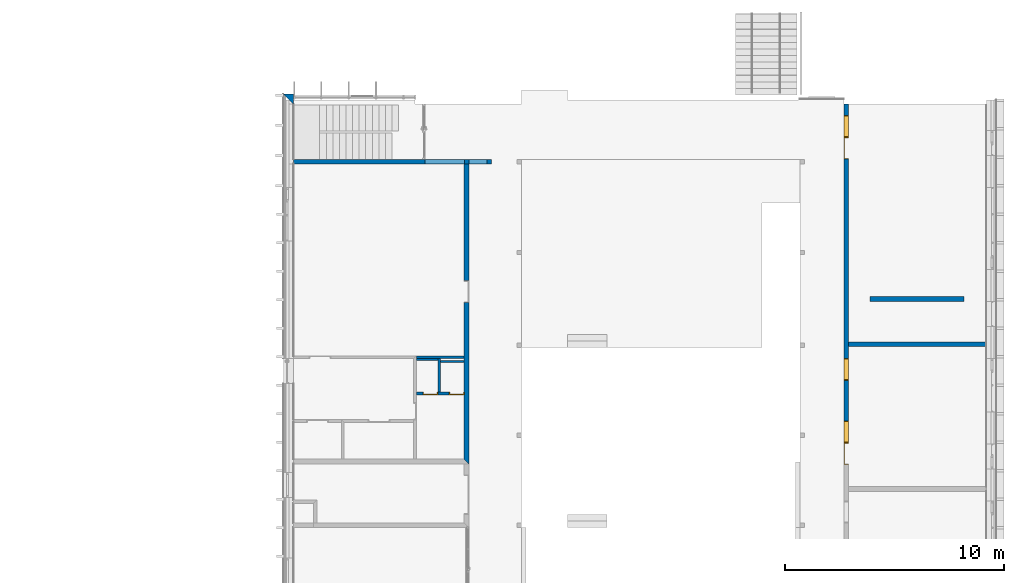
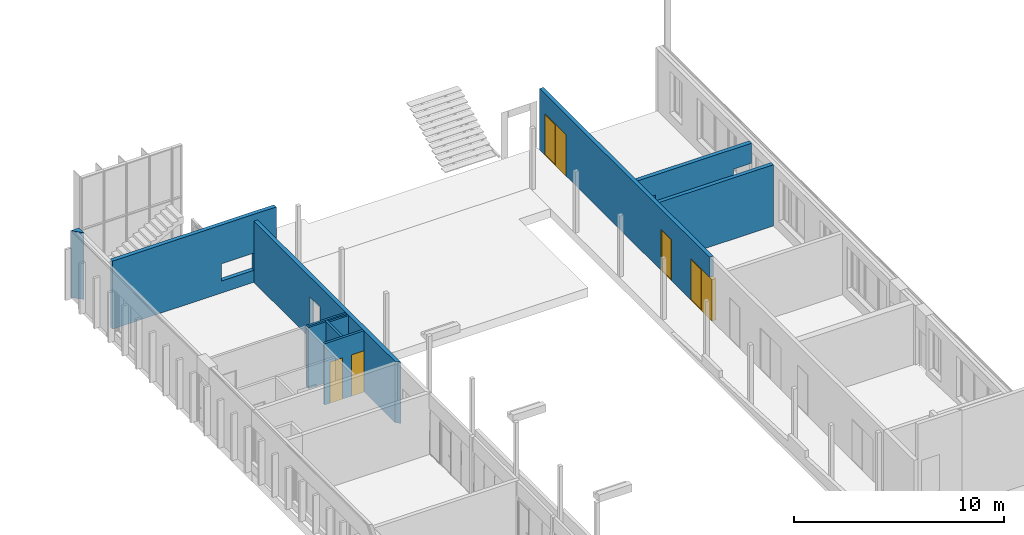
# One storey, part 10 of 65: 11 walls, 4 doors, 3 windows, 12 openings.
"""IFC2X3 building model written with IfcOpenShell, lengths in millimetres."""

import ifcopenshell
import ifcopenshell.guid

model = None  # the IFC model being written
_history = None  # IfcOwnerHistory: only IFC2X3 demands one
_inside = {}  # id of a spatial element -> (the spatial element, [elements in it])
_under = {}  # id of a project, library or spatial element -> (it, [spatial elements below it])
_declared = {}  # id of a project -> (the project, [libraries it declares])
_typed = {}  # id of a type object -> (the type object, [elements of that type])
_made_of = {}  # id of a material, layer set ... -> (it, [elements and type objects made of it])


def new_model(schema):
    """Start an empty IFC model of exactly this schema.

    Asked for "IFC4X3", IfcOpenShell would pick the latest addendum, in which some entities
    have other attributes; the version numbers below select the first issue.
    IFC2X3 requires an IfcOwnerHistory on every rooted entity: one is made here for all.
    """
    global model, _history
    if schema == "IFC4X3":
        model = ifcopenshell.file(schema_version=(4, 3, 0, 0))
    else:
        model = ifcopenshell.file(schema=schema)
    _inside.clear()
    _under.clear()
    _declared.clear()
    _typed.clear()
    _made_of.clear()
    _history = None
    if model.schema == "IFC2X3":
        org = make("IfcOrganization", Name="unknown")
        user = make(
            "IfcPersonAndOrganization",
            ThePerson=make("IfcPerson", FamilyName="unknown"),
            TheOrganization=org,
        )
        app = make(
            "IfcApplication",
            ApplicationDeveloper=org,
            Version="unknown",
            ApplicationFullName="unknown",
            ApplicationIdentifier="unknown",
        )
        _history = make(
            "IfcOwnerHistory",
            OwningUser=user,
            OwningApplication=app,
            ChangeAction="ADDED",
            CreationDate=0,
        )
    return model


def make(cls, **values):
    """One entity of the class cls with the attributes given. An attribute that is None is left unset."""
    return model.create_entity(
        cls, **{name: value for name, value in values.items() if value is not None}
    )


def entity(cls, *values):
    """Any entity or typed value of the class cls, its attributes in the order of the schema. None: left unset."""
    e = model.create_entity(cls)
    for i, value in enumerate(values):
        if value is not None:
            e[i] = value
    return e


def rooted(cls, **values):
    """An entity with a GlobalId (a new one), such as an element, a storey or a relation."""
    return make(cls, GlobalId=ifcopenshell.guid.new(), OwnerHistory=_history, **values)


def si_unit(unit_type, name, prefix=None):
    """IfcSIUnit, for example si_unit("LENGTHUNIT", "METRE", prefix="MILLI")."""
    return make("IfcSIUnit", UnitType=unit_type, Prefix=prefix, Name=name)


def converted_unit(unit_type, name, factor, base, dimensions=None, offset=None):
    """IfcConversionBasedUnit, such as the inch: factor (a typed value) times the base unit."""
    return make(
        "IfcConversionBasedUnit"
        if offset is None
        else "IfcConversionBasedUnitWithOffset",
        ConversionOffset=offset,
        Dimensions=None
        if dimensions is None
        else entity("IfcDimensionalExponents", *dimensions),
        UnitType=unit_type,
        Name=name,
        ConversionFactor=make(
            "IfcMeasureWithUnit", ValueComponent=factor, UnitComponent=base
        ),
    )


def derived_unit(unit_type, elements):
    """IfcDerivedUnit: a product of units, each with its exponent."""
    return make(
        "IfcDerivedUnit",
        Elements=[
            make("IfcDerivedUnitElement", Unit=unit, Exponent=power)
            for unit, power in elements
        ],
        UnitType=unit_type,
    )


def money_unit(currency):
    """IfcMonetaryUnit."""
    return make("IfcMonetaryUnit", Currency=currency)


def assignment(units):
    """IfcUnitAssignment: the units of a project."""
    return None if units is None else make("IfcUnitAssignment", Units=units)


def point(xyz):
    """IfcCartesianPoint."""
    return None if xyz is None else make("IfcCartesianPoint", Coordinates=xyz)


def direction(xyz):
    """IfcDirection."""
    return None if xyz is None else make("IfcDirection", DirectionRatios=xyz)


def frame(location, z_axis=None, x_axis=None):
    """IfcAxis2Placement3D, a coordinate frame: its origin and axes. An axis left out is left unset."""
    return make(
        "IfcAxis2Placement3D",
        Location=point(location),
        Axis=direction(z_axis),
        RefDirection=direction(x_axis),
    )


def frame_2d(location, x_axis=None):
    """IfcAxis2Placement2D, a coordinate frame in the plane: its origin and x axis."""
    return make(
        "IfcAxis2Placement2D", Location=point(location), RefDirection=direction(x_axis)
    )


def origin_with_axes():
    """The frame at (0, 0, 0) with the z axis (0, 0, 1) and the x axis (1, 0, 0) written out."""
    return frame((0.0, 0.0, 0.0), z_axis=(0.0, 0.0, 1.0), x_axis=(1.0, 0.0, 0.0))


def origin_2d_with_axis():
    """The frame at (0, 0) in the plane with the x axis (1, 0) written out."""
    return frame_2d((0.0, 0.0), x_axis=(1.0, 0.0))


def place(relative_to, where):
    """IfcLocalPlacement: puts the frame where relative to a parent placement (None: the world)."""
    return make(
        "IfcLocalPlacement", PlacementRelTo=relative_to, RelativePlacement=where
    )


def context(
    kind, dimensions, precision=None, world=None, true_north=None, identifier=None
):
    """IfcGeometricRepresentationContext, for example the 3D "Model" context."""
    return make(
        "IfcGeometricRepresentationContext",
        ContextIdentifier=identifier,
        ContextType=kind,
        CoordinateSpaceDimension=dimensions,
        Precision=precision,
        WorldCoordinateSystem=world,
        TrueNorth=true_north,
    )


def subcontext(parent, identifier, kind, view, scale=None):
    """IfcGeometricRepresentationSubContext, for example "Body" below "Model"."""
    return make(
        "IfcGeometricRepresentationSubContext",
        ContextIdentifier=identifier,
        ContextType=kind,
        ParentContext=parent,
        TargetScale=scale,
        TargetView=view,
    )


def project(units=None, contexts=None):
    """IfcProject with its units and contexts."""
    return rooted(
        "IfcProject",
        Name="project",
        RepresentationContexts=contexts,
        UnitsInContext=assignment(units),
    )


def spatial(cls, under=None, at=None, **own):
    """A site, building, storey or space (cls), placed at a placement, below another one or the project."""
    s = rooted(cls, ObjectPlacement=at, **own)
    if under is not None:
        _under.setdefault(under.id(), (under, []))[1].append(s)
    return s


def polyline(points):
    """IfcPolyline through the points."""
    return make("IfcPolyline", Points=[point(p) for p in points])


def profile(cls, at=None, kind="AREA", **sizes):
    """A parametric profile (cls). Its sizes go by their IFC names, for example OverallWidth=200.0."""
    return make(cls, ProfileType=kind, Position=at, **sizes)


def rectangle(**sizes):
    """IfcRectangleProfileDef."""
    return profile("IfcRectangleProfileDef", **sizes)


def outline(outer, holes=None, kind="AREA"):
    """IfcArbitraryClosedProfileDef: a profile drawn as a closed curve; with holes, ...WithVoids."""
    if holes is None:
        return make("IfcArbitraryClosedProfileDef", ProfileType=kind, OuterCurve=outer)
    return make(
        "IfcArbitraryProfileDefWithVoids",
        ProfileType=kind,
        OuterCurve=outer,
        InnerCurves=holes,
    )


def extrude(swept, where, along, depth):
    """IfcExtrudedAreaSolid: the profile swept, set in the frame where, extruded along a direction by depth."""
    return make(
        "IfcExtrudedAreaSolid",
        SweptArea=swept,
        Position=where,
        ExtrudedDirection=direction(along),
        Depth=depth,
    )


def faces_of(points, faces, orient=None, outer=None):
    """IfcFace entities. A face is a list of loops; a loop is a list of indices into points, from 0.

    orient and outer hold one flag for each loop. By default every Orientation is true, the
    first loop of a face is its IfcFaceOuterBound and the others are IfcFaceBound.
    """
    made = []
    for i, loops in enumerate(faces):
        bounds = []
        for j, loop in enumerate(loops):
            is_outer = j == 0 if outer is None else outer[i][j]
            bounds.append(
                make(
                    "IfcFaceOuterBound" if is_outer else "IfcFaceBound",
                    Bound=make("IfcPolyLoop", Polygon=[points[k] for k in loop]),
                    Orientation=True if orient is None else orient[i][j],
                )
            )
        made.append(make("IfcFace", Bounds=bounds))
    return made


def open_shell(faces, orient=None, outer=None):
    """The faces of one IfcOpenShell. surface_model builds it on its shared points."""
    return ("IfcOpenShell", faces, orient, outer)


def faceted_brep(points, faces, orient=None, outer=None, voids=None):
    """IfcFacetedBrep: a solid bounded by flat faces; with voids (closed shells), ...WithVoids."""
    shared = [point(p) for p in points]
    hull = make("IfcClosedShell", CfsFaces=faces_of(shared, faces, orient, outer))
    if voids is None:
        return make("IfcFacetedBrep", Outer=hull)
    return make(
        "IfcFacetedBrepWithVoids",
        Outer=hull,
        Voids=[
            make(cls, CfsFaces=faces_of(shared, fs, o, b)) for cls, fs, o, b in voids
        ],
    )


def surface_model(cls, points, shells):
    """IfcFaceBasedSurfaceModel or IfcShellBasedSurfaceModel (cls): surfaces that need not close."""
    shared = [point(p) for p in points]
    made = [make(c, CfsFaces=faces_of(shared, fs, o, b)) for c, fs, o, b in shells]
    if cls == "IfcFaceBasedSurfaceModel":
        return make(cls, FbsmFaces=made)
    return make(cls, SbsmBoundary=made)


def shape(context_of_items, identifier, shape_type, items):
    """IfcShapeRepresentation: the items that make up one representation, for example the "Body"."""
    return make(
        "IfcShapeRepresentation",
        ContextOfItems=context_of_items,
        RepresentationIdentifier=identifier,
        RepresentationType=shape_type,
        Items=items,
    )


def source(mapping_origin, context_of_items, identifier, shape_type, items):
    """IfcRepresentationMap: a shape defined once, which mapped items show again and again."""
    return make(
        "IfcRepresentationMap",
        MappingOrigin=mapping_origin,
        MappedRepresentation=shape(context_of_items, identifier, shape_type, items),
    )


def transform(
    local_origin,
    x_axis=None,
    y_axis=None,
    z_axis=None,
    scale=None,
    scale2=None,
    scale3=None,
    uniform=True,
):
    """IfcCartesianTransformationOperator3D, or its non-uniform kind. x_axis, y_axis, z_axis: its Axis1, 2, 3."""
    if uniform:
        return make(
            "IfcCartesianTransformationOperator3D",
            Axis1=direction(x_axis),
            Axis2=direction(y_axis),
            LocalOrigin=point(local_origin),
            Scale=scale,
            Axis3=direction(z_axis),
        )
    return make(
        "IfcCartesianTransformationOperator3DnonUniform",
        Axis1=direction(x_axis),
        Axis2=direction(y_axis),
        LocalOrigin=point(local_origin),
        Scale=scale,
        Axis3=direction(z_axis),
        Scale2=scale2,
        Scale3=scale3,
    )


def mapped(mapping_source, mapping_target):
    """IfcMappedItem: shows the shape of a source again, moved by a transform."""
    return make(
        "IfcMappedItem", MappingSource=mapping_source, MappingTarget=mapping_target
    )


def material(Name=None, Category=None):
    """IfcMaterial."""
    return make("IfcMaterial", Name=Name, Category=Category)


def layer(
    of_material, thickness, ventilated=None, Name=None, Category=None, Priority=None
):
    """IfcMaterialLayer: one layer of a wall or slab, of a material (None: an air gap)."""
    return make(
        "IfcMaterialLayer",
        Material=of_material,
        LayerThickness=thickness,
        IsVentilated=ventilated,
        Name=Name,
        Category=Category,
        Priority=Priority,
    )


def layer_set(layers, Name=None):
    """IfcMaterialLayerSet."""
    return make("IfcMaterialLayerSet", MaterialLayers=layers, LayerSetName=Name)


def layer_usage(for_layer_set, set_direction, sense, offset, extent=None):
    """IfcMaterialLayerSetUsage: how a layer set lies in its element."""
    return make(
        "IfcMaterialLayerSetUsage",
        ForLayerSet=for_layer_set,
        LayerSetDirection=set_direction,
        DirectionSense=sense,
        OffsetFromReferenceLine=offset,
        ReferenceExtent=extent,
    )


def made_of(thing, what):
    """Note that an element or type object is made of a material, layer set ...; save() writes the relation."""
    if what is not None:
        _made_of.setdefault(what.id(), (what, []))[1].append(thing)
    return thing


def type_object(cls, material=None, **own):
    """A type object (cls), such as IfcWallType, which elements share."""
    return made_of(rooted(cls, **own), material)


def element(
    cls,
    number,
    at=None,
    inside=None,
    cuts=None,
    type_object=None,
    material=None,
    context=None,
    identifier="Body",
    shape_type=None,
    held_by="IfcProductDefinitionShape",
    body=None,
    shapes=None,
    **own,
):
    """One element of the class cls, such as IfcWall. Its Tag is "e" and its number.

    at: its placement. inside: the storey or other place that contains it. cuts: it is an
    opening in that element (IfcRelVoidsElement). A single representation is given by context,
    identifier, shape_type and body (its items); several are given by shapes. held_by: the class
    of the entity that holds the representations. save() writes the other relations.
    """
    e = rooted(cls, Tag="e%d" % number, ObjectPlacement=at, **own)
    if body is not None:
        shapes = [shape(context, identifier, shape_type, body)]
    if shapes is not None:
        e.Representation = make(held_by, Representations=shapes)
    if inside is not None:
        _inside.setdefault(inside.id(), (inside, []))[1].append(e)
    if cuts is not None:
        rooted(
            "IfcRelVoidsElement", RelatingBuildingElement=cuts, RelatedOpeningElement=e
        )
    if type_object is not None:
        _typed.setdefault(type_object.id(), (type_object, []))[1].append(e)
    return made_of(e, material)


def fill(opening, filler):
    """IfcRelFillsElement: the door or window that sits in an opening."""
    return rooted(
        "IfcRelFillsElement",
        RelatingOpeningElement=opening,
        RelatedBuildingElement=filler,
    )


def aggregate(whole, parts):
    """IfcRelAggregates: a whole, such as a stair, and the parts it consists of."""
    return rooted("IfcRelAggregates", RelatingObject=whole, RelatedObjects=parts)


def save(model, path):
    """Write the relations noted so far, then the file.

    IfcRelAggregates (storeys below a building ...), IfcRelContainedInSpatialStructure (elements
    in a storey), IfcRelDefinesByType, IfcRelAssociatesMaterial and IfcRelDeclares: one each for
    every whole, place, type object, material and project.
    """
    for whole, parts in _under.values():
        aggregate(whole, parts)
    for where, things in _inside.values():
        rooted(
            "IfcRelContainedInSpatialStructure",
            RelatedElements=things,
            RelatingStructure=where,
        )
    for kind, things in _typed.values():
        rooted("IfcRelDefinesByType", RelatedObjects=things, RelatingType=kind)
    for what, things in _made_of.values():
        rooted("IfcRelAssociatesMaterial", RelatedObjects=things, RelatingMaterial=what)
    for by, libraries in _declared.values():
        rooted("IfcRelDeclares", RelatingContext=by, RelatedDefinitions=libraries)
    model.write(path)


model = new_model("IFC2X3")

# Units and contexts
model_context = context("Model", 3, precision=0.01, world=origin_with_axes(), true_north=direction((0.0, 1.0)))
body_context = subcontext(model_context, "Body", "Model", "MODEL_VIEW")
ifc_project = project(units=[si_unit("LENGTHUNIT", "METRE", prefix="MILLI"), si_unit("AREAUNIT", "SQUARE_METRE"), si_unit("VOLUMEUNIT", "CUBIC_METRE"), converted_unit("PLANEANGLEUNIT", "DEGREE", entity("IfcPlaneAngleMeasure", 0.0174532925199), si_unit("PLANEANGLEUNIT", "RADIAN"), dimensions=[0, 0, 0, 0, 0, 0, 0]), si_unit("SOLIDANGLEUNIT", "STERADIAN"), money_unit("EUR"), converted_unit("TIMEUNIT", "Year", entity("IfcTimeMeasure", 31556926.0), si_unit("TIMEUNIT", "SECOND"), dimensions=[0, 0, 1, 0, 0, 0, 0]), si_unit("MASSUNIT", "GRAM", prefix="KILO"), si_unit("THERMODYNAMICTEMPERATUREUNIT", "DEGREE_CELSIUS"), si_unit("LUMINOUSINTENSITYUNIT", "LUMEN"), si_unit("ENERGYUNIT", "JOULE", prefix="MEGA"), derived_unit("THERMALCONDUCTANCEUNIT", [(si_unit("POWERUNIT", "WATT"), 1), (si_unit("LENGTHUNIT", "METRE"), -1), (si_unit("THERMODYNAMICTEMPERATUREUNIT", "KELVIN"), -1)]), derived_unit("SPECIFICHEATCAPACITYUNIT", [(si_unit("ENERGYUNIT", "JOULE"), 1), (si_unit("MASSUNIT", "GRAM", prefix="KILO"), -1), (si_unit("THERMODYNAMICTEMPERATUREUNIT", "KELVIN"), -1)]), derived_unit("MASSDENSITYUNIT", [(si_unit("MASSUNIT", "GRAM", prefix="KILO"), 1), (si_unit("VOLUMEUNIT", "CUBIC_METRE"), -1)])], contexts=[model_context])

# Site, building, storey
site_placement = place(None, origin_with_axes())
site = spatial("IfcSite", under=ifc_project, at=site_placement, Name="Puškini 31, Narva", CompositionType="ELEMENT")
building_placement = place(site_placement, origin_with_axes())
building = spatial("IfcBuilding", under=site, at=building_placement, Name="Narva Riigigümnaasium", CompositionType="ELEMENT")
storey_placement = place(building_placement, frame((0.0, 0.0, -1320.0), z_axis=(0.0, 0.0, 1.0), x_axis=(1.0, 0.0, 0.0)))
storey = spatial("IfcBuildingStorey", under=building, at=storey_placement, Name="1.korrus -1.32", CompositionType="ELEMENT", Elevation=-1320.0)

# Walls
ifc_material_1 = material(Name="fassaadiplaat")
ifc_layer_1 = layer(ifc_material_1, 8.0, ventilated="UNKNOWN")
ifc_material_2 = material(Name="Salto-roovitus")
ifc_layer_2 = layer(ifc_material_2, 50.0, ventilated="UNKNOWN")
ifc_material_3 = material(Name="Salto-PIR soojustus")
ifc_layer_3 = layer(ifc_material_3, 50.0, ventilated="UNKNOWN")
ifc_layer_4 = layer(ifc_material_3, 150.0, ventilated="UNKNOWN")
ifc_material_4 = material(Name="Betoon element")
ifc_layer_5 = layer(ifc_material_4, 200.0, ventilated="UNKNOWN")
ifc_material_5 = material(Name="Salto-siseviimistlus-seinad")
ifc_layer_6 = layer(ifc_material_5, 10.0, ventilated="UNKNOWN")
ifc_layer_set_1 = layer_set([ifc_layer_1, ifc_layer_2, ifc_layer_3, ifc_layer_4, ifc_layer_5, ifc_layer_6], Name="G-VS-01")
ifc_layer_usage_1 = layer_usage(ifc_layer_set_1, "AXIS2", "NEGATIVE", 458.0)
wall_type_1 = type_object("IfcWallType", Name="G-VS-01 468", PredefinedType="NOTDEFINED")
wall_1_placement = place(storey_placement, frame((22399.9999985, 194700.0, 70.2720110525), z_axis=(0.0, 0.0, 1.0), x_axis=(1.0, 0.0, 0.0)))
element("IfcWallStandardCase", 1, at=wall_1_placement, inside=storey, type_object=wall_type_1, material=ifc_layer_usage_1, Name="Välissein", context=body_context, shape_type="SweptSolid", body=[
    extrude(outline(polyline([(10.0, -9.99999999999), (10.0, 458.0), (-458.0, 458.0), (10.0, -9.99999999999)])), origin_with_axes(), (0.0, 0.0, 1.0), 3889.72798895),
])
ifc_material_6 = material(Name="siseviimistlus-seinad")
ifc_layer_7 = layer(ifc_material_6, 15.0, ventilated="UNKNOWN")
ifc_material_7 = material(Name="Kipsplaat")
ifc_layer_8 = layer(ifc_material_7, 12.5, ventilated="UNKNOWN")
ifc_layer_9 = layer(ifc_material_7, 12.0, ventilated="UNKNOWN")
ifc_material_8 = material(Name="Karkass")
ifc_layer_10 = layer(ifc_material_8, 66.0, ventilated="UNKNOWN")
ifc_layer_set_2 = layer_set([ifc_layer_7, ifc_layer_8, ifc_layer_9, ifc_layer_10], Name="G-SS-06")
ifc_layer_usage_2 = layer_usage(ifc_layer_set_2, "AXIS2", "POSITIVE", -15.0)
wall_type_2 = type_object("IfcWallType", Name="G-SS-06 106", PredefinedType="NOTDEFINED")
wall_2_placement = place(storey_placement, frame((29099.9999994, 182925.649991, 0.0), z_axis=(0.0, 0.0, 1.0), x_axis=(1.0, 0.0, 0.0)))
element("IfcWallStandardCase", 2, at=wall_2_placement, inside=storey, type_object=wall_type_2, material=ifc_layer_usage_2, Name="Sisesein", context=body_context, shape_type="SweptSolid", body=[
    extrude(outline(polyline([(15.0, -15.0), (1085.00000001, -15.0), (1085.00000001, 90.5), (15.0, 90.5), (15.0, -15.0)])), origin_with_axes(), (0.0, 0.0, 1.0), 3560.0),
])
wall_3_placement = place(storey_placement, frame((27999.9999994, 183019.649991, 0.0), z_axis=(0.0, 0.0, 1.0), x_axis=(1.0, 0.0, 0.0)))
element("IfcWallStandardCase", 3, at=wall_3_placement, inside=storey, type_object=wall_type_2, material=ifc_layer_usage_2, Name="Sisesein", context=body_context, shape_type="SweptSolid", body=[
    extrude(outline(polyline([(15.0, -15.0), (985.000000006, -15.0), (985.000000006, 90.5), (15.0, 90.5), (15.0, -15.0)])), origin_with_axes(), (0.0, 0.0, 1.0), 3560.0),
])

# Wall, openings, windows, doors
ifc_layer_11 = layer(ifc_material_6, 10.0, ventilated="UNKNOWN")
ifc_layer_set_3 = layer_set([ifc_layer_5, ifc_layer_11], Name="G-SS-01-02")
ifc_layer_usage_3 = layer_usage(ifc_layer_set_3, "AXIS2", "POSITIVE", 0.0)
wall_type_3 = type_object("IfcWallType", Name="G-SS-01-02 210", PredefinedType="NOTDEFINED")
wall_4_placement = place(storey_placement, frame((47499.9999944, 194700.0, 0.0), z_axis=(0.0, 0.0, 1.0), x_axis=(0.0, -1.0, 0.0)))
wall_4 = element("IfcWallStandardCase", 4, at=wall_4_placement, inside=storey, type_object=wall_type_3, material=ifc_layer_usage_3, Name="Sisesein", context=body_context, shape_type="SweptSolid", body=[
    extrude(outline(polyline([(0.0, 0.0), (16199.99999, 0.0), (16199.99999, 210.0), (0.0, 210.0), (0.0, 0.0)])), origin_with_axes(), (0.0, 0.0, 1.0), 3565.0),
])
opening_1_placement = place(wall_4_placement, frame((14940.0000148, 0.0, 0.0), z_axis=(0.0, 0.0, 1.0), x_axis=(1.0, 0.0, 0.0)))
opening_1 = element("IfcOpeningElement", 5, at=opening_1_placement, cuts=wall_4, Name="G-SA-2", context=body_context, shape_type="SweptSolid", body=[
    extrude(rectangle(XDim=1000.0, YDim=2400.0, at=origin_2d_with_axis()), frame((0.0, 210.0, 1200.0), z_axis=(0.0, 1.0, 0.0), x_axis=(1.0, 0.0, 0.0)), (0.0, 0.0, -1.0), 630.0),
])
opening_2_placement = place(wall_4_placement, frame((12089.8487277, 0.0, 0.0), z_axis=(0.0, 0.0, 1.0), x_axis=(1.0, 0.0, 0.0)))
opening_2 = element("IfcOpeningElement", 6, at=opening_2_placement, cuts=wall_4, Name="G-SA-2", context=body_context, shape_type="SweptSolid", body=[
    extrude(rectangle(XDim=1000.0, YDim=2400.0, at=origin_2d_with_axis()), frame((0.0, 210.0, 1200.0), z_axis=(0.0, -1.0, 0.0), x_axis=(-1.0, 0.0, 0.0)), (0.0, 0.0, 1.0), 630.0),
])
opening_3_placement = place(wall_4_placement, frame((1009.99999955, 0.0, 0.0), z_axis=(0.0, 0.0, 1.0), x_axis=(1.0, 0.0, 0.0)))
opening_3 = element("IfcOpeningElement", 7, at=opening_3_placement, cuts=wall_4, Name="G-SA-2", context=body_context, shape_type="SweptSolid", body=[
    extrude(rectangle(XDim=1000.0, YDim=2400.0, at=origin_2d_with_axis()), frame((0.0, 210.0, 1200.0), z_axis=(0.0, 1.0, 0.0), x_axis=(1.0, 0.0, 0.0)), (0.0, 0.0, -1.0), 630.0),
])
opening_4_placement = place(wall_4_placement, frame((15940.0000148, 0.0, 0.0), z_axis=(0.0, 0.0, 1.0), x_axis=(1.0, 0.0, 0.0)))
opening_4 = element("IfcOpeningElement", 8, at=opening_4_placement, cuts=wall_4, Name="G-SU-11", context=body_context, shape_type="SweptSolid", body=[
    extrude(rectangle(XDim=1000.0, YDim=2400.0, at=origin_2d_with_axis()), frame((0.0, 210.0, 1200.0), z_axis=(0.0, -1.0, 0.0), x_axis=(-1.0, 0.0, 0.0)), (0.0, 0.0, 1.0), 630.0),
])
opening_5_placement = place(wall_4_placement, frame((2009.99999955, 0.0, 0.0), z_axis=(0.0, 0.0, 1.0), x_axis=(1.0, 0.0, 0.0)))
opening_5 = element("IfcOpeningElement", 9, at=opening_5_placement, cuts=wall_4, Name="G-SU-010", context=body_context, shape_type="SweptSolid", body=[
    extrude(rectangle(XDim=1000.0, YDim=2400.0, at=origin_2d_with_axis()), frame((0.0, 210.0, 1200.0), z_axis=(0.0, -1.0, 0.0), x_axis=(-1.0, 0.0, 0.0)), (0.0, 0.0, 1.0), 630.0),
])
window_style = type_object("IfcWindowStyle", Name="Window 23", ConstructionType="NOTDEFINED", OperationType="SINGLE_PANEL", ParameterTakesPrecedence=False, Sizeable=False)
shared_shape_1 = source(origin_with_axes(), body_context, "Body", "SurfaceModel", [
    faceted_brep([(-460.0, -210.0, 2360.0), (-460.0, 0.0, 2360.0), (-500.0, 0.0, 2360.0), (-500.0, -210.0, 2360.0), (-460.0, -210.0, 40.0), (-460.0, 0.0, 40.0), (-500.0, 0.0, 40.0), (-500.0, -210.0, 40.0)], [[[0, 1, 2, 3]], [[4, 5, 1, 0]], [[1, 5, 6, 2]], [[3, 2, 6, 7]], [[0, 3, 7, 4]], [[7, 6, 5, 4]]]),
    faceted_brep([(460.0, -210.0, 40.0), (460.0, 0.0, 40.0), (500.0, 0.0, 40.0), (500.0, -210.0, 40.0), (460.0, -210.0, 2360.0), (460.0, 0.0, 2360.0), (500.0, 0.0, 2360.0), (500.0, -210.0, 2360.0)], [[[0, 1, 2, 3]], [[4, 5, 1, 0]], [[1, 5, 6, 2]], [[3, 2, 6, 7]], [[0, 3, 7, 4]], [[7, 6, 5, 4]]]),
    faceted_brep([(-460.0, -210.0, 40.0), (-460.0, 0.0, 40.0), (-500.0, 0.0, 40.0), (-500.0, -210.0, 40.0), (460.0, -210.0, 40.0), (460.0, 0.0, 40.0), (500.0, 0.0, 40.0), (500.0, 0.0, 0.0), (-500.0, 0.0, 0.0), (-500.0, -210.0, 0.0), (500.0, -210.0, 0.0), (500.0, -210.0, 40.0)], [[[0, 1, 2, 3]], [[4, 5, 1, 0]], [[1, 5, 6, 7, 8, 2]], [[3, 2, 8, 9]], [[0, 3, 9, 10, 11, 4]], [[11, 6, 5, 4]], [[10, 7, 6, 11]], [[9, 8, 7, 10]]]),
    faceted_brep([(460.0, -210.0, 2360.0), (460.0, 0.0, 2360.0), (500.0, 0.0, 2360.0), (500.0, -210.0, 2360.0), (-460.0, -210.0, 2360.0), (-460.0, 0.0, 2360.0), (-500.0, 0.0, 2360.0), (-500.0, 0.0, 2400.0), (500.0, 0.0, 2400.0), (500.0, -210.0, 2400.0), (-500.0, -210.0, 2400.0), (-500.0, -210.0, 2360.0)], [[[0, 1, 2, 3]], [[4, 5, 1, 0]], [[1, 5, 6, 7, 8, 2]], [[3, 2, 8, 9]], [[0, 3, 9, 10, 11, 4]], [[11, 6, 5, 4]], [[10, 7, 6, 11]], [[9, 8, 7, 10]]]),
    surface_model("IfcShellBasedSurfaceModel", [(-460.0, -35.0, 40.0), (460.0, -35.0, 40.0), (460.0, -35.0, 2360.0), (-460.0, -35.0, 2360.0)], [open_shell([[[0, 1, 2, 3]]])]),
    surface_model("IfcShellBasedSurfaceModel", [(-460.0, -15.0, 40.0), (-460.0, -15.0, 2360.0), (460.0, -15.0, 2360.0), (460.0, -15.0, 40.0)], [open_shell([[[0, 1, 2, 3]]])]),
])
window_1_placement = place(opening_2_placement, frame((500.0, 0.0, 0.0), z_axis=(0.0, 0.0, 1.0), x_axis=(-1.0, 0.0, 0.0)))
window_1 = element("IfcWindow", 10, at=window_1_placement, inside=storey, type_object=window_style, Name="G-SA-2", ObjectType="WINDOW", OverallHeight=2400.0, OverallWidth=1000.0, context=body_context, shape_type="MappedRepresentation", body=[
    mapped(shared_shape_1, transform((500.0, 0.0, 0.0))),
])
fill(opening_2, window_1)
shared_shape_2 = source(origin_with_axes(), body_context, "Body", "SurfaceModel", [
    faceted_brep([(460.0, -210.0, 2360.0), (500.0, -210.0, 2360.0), (500.0, 0.0, 2360.0), (460.0, 0.0, 2360.0), (460.0, -210.0, 40.0), (500.0, -210.0, 40.0), (500.0, 0.0, 40.0), (460.0, 0.0, 40.0)], [[[0, 1, 2, 3]], [[0, 4, 5, 1]], [[1, 5, 6, 2]], [[3, 2, 6, 7]], [[4, 0, 3, 7]], [[5, 4, 7, 6]]]),
    faceted_brep([(-460.0, -210.0, 40.0), (-500.0, -210.0, 40.0), (-500.0, 0.0, 40.0), (-460.0, 0.0, 40.0), (-460.0, -210.0, 2360.0), (-500.0, -210.0, 2360.0), (-500.0, 0.0, 2360.0), (-460.0, 0.0, 2360.0)], [[[0, 1, 2, 3]], [[0, 4, 5, 1]], [[1, 5, 6, 2]], [[3, 2, 6, 7]], [[4, 0, 3, 7]], [[5, 4, 7, 6]]]),
    faceted_brep([(460.0, -210.0, 40.0), (500.0, -210.0, 40.0), (500.0, 0.0, 40.0), (460.0, 0.0, 40.0), (-460.0, -210.0, 40.0), (-500.0, -210.0, 40.0), (-500.0, -210.0, 0.0), (500.0, -210.0, 0.0), (500.0, 0.0, 0.0), (-500.0, 0.0, 0.0), (-500.0, 0.0, 40.0), (-460.0, 0.0, 40.0)], [[[0, 1, 2, 3]], [[0, 4, 5, 6, 7, 1]], [[1, 7, 8, 2]], [[3, 2, 8, 9, 10, 11]], [[4, 0, 3, 11]], [[5, 4, 11, 10]], [[6, 5, 10, 9]], [[7, 6, 9, 8]]]),
    faceted_brep([(-460.0, -210.0, 2360.0), (-500.0, -210.0, 2360.0), (-500.0, 0.0, 2360.0), (-460.0, 0.0, 2360.0), (460.0, -210.0, 2360.0), (500.0, -210.0, 2360.0), (500.0, -210.0, 2400.0), (-500.0, -210.0, 2400.0), (-500.0, 0.0, 2400.0), (500.0, 0.0, 2400.0), (500.0, 0.0, 2360.0), (460.0, 0.0, 2360.0)], [[[0, 1, 2, 3]], [[0, 4, 5, 6, 7, 1]], [[1, 7, 8, 2]], [[3, 2, 8, 9, 10, 11]], [[4, 0, 3, 11]], [[5, 4, 11, 10]], [[6, 5, 10, 9]], [[7, 6, 9, 8]]]),
    surface_model("IfcShellBasedSurfaceModel", [(460.0, -35.0, 40.0), (460.0, -35.0, 2360.0), (-460.0, -35.0, 2360.0), (-460.0, -35.0, 40.0)], [open_shell([[[0, 1, 2, 3]]])]),
    surface_model("IfcShellBasedSurfaceModel", [(460.0, -15.0, 40.0), (-460.0, -15.0, 40.0), (-460.0, -15.0, 2360.0), (460.0, -15.0, 2360.0)], [open_shell([[[0, 1, 2, 3]]])]),
])
window_2_placement = place(opening_1_placement, frame((500.0, 0.0, 0.0), z_axis=(0.0, 0.0, 1.0), x_axis=(-1.0, 0.0, 0.0)))
window_2 = element("IfcWindow", 11, at=window_2_placement, inside=storey, type_object=window_style, Name="G-SA-2", ObjectType="WINDOW", OverallHeight=2400.0, OverallWidth=1000.0, context=body_context, shape_type="MappedRepresentation", body=[
    mapped(shared_shape_2, transform((500.0, 0.0, 0.0))),
])
fill(opening_1, window_2)
window_3_placement = place(opening_3_placement, frame((500.0, 0.0, 0.0), z_axis=(0.0, 0.0, 1.0), x_axis=(-1.0, 0.0, 0.0)))
window_3 = element("IfcWindow", 12, at=window_3_placement, inside=storey, type_object=window_style, Name="G-SA-2", ObjectType="WINDOW", OverallHeight=2400.0, OverallWidth=1000.0, context=body_context, shape_type="MappedRepresentation", body=[
    mapped(shared_shape_2, transform((500.0, 0.0, 0.0))),
])
fill(opening_3, window_3)
door_style_1 = type_object("IfcDoorStyle", Name="Door 23", ConstructionType="NOTDEFINED", OperationType="SINGLE_SWING_RIGHT", ParameterTakesPrecedence=False, Sizeable=False)
shared_shape_3 = source(origin_with_axes(), body_context, "Body", "Brep", [
    faceted_brep([(-460.0, -40.0, 0.0), (-460.0, -40.0, 2360.0), (-460.0, -210.0, 2360.0), (-460.0, -210.0, 0.0), (-472.0, -40.0, 2360.0), (-472.0, -40.0, 0.0), (-472.0, 0.0, 2360.0), (-500.0, 0.0, 2360.0), (-500.0, -210.0, 2360.0), (-500.0, -210.0, 0.0), (-500.0, 0.0, 0.0), (-472.0, 0.0, 0.0)], [[[0, 1, 2, 3]], [[4, 1, 0, 5]], [[4, 6, 7, 8, 2, 1]], [[3, 2, 8, 9]], [[5, 0, 3, 9, 10, 11]], [[6, 4, 5, 11]], [[6, 11, 10, 7]], [[10, 9, 8, 7]]]),
    faceted_brep([(472.0, -40.0, 2360.0), (460.0, -40.0, 2360.0), (460.0, -210.0, 2360.0), (500.0, -210.0, 2360.0), (500.0, 0.0, 2360.0), (472.0, 0.0, 2360.0), (472.0, -40.0, 0.0), (460.0, -40.0, 0.0), (460.0, -210.0, 0.0), (500.0, -210.0, 0.0), (500.0, 0.0, 0.0), (472.0, 0.0, 0.0)], [[[0, 1, 2, 3, 4, 5]], [[1, 0, 6, 7]], [[1, 7, 8, 2]], [[3, 2, 8, 9]], [[4, 3, 9, 10]], [[11, 5, 4, 10]], [[0, 5, 11, 6]], [[6, 11, 10, 9, 8, 7]]]),
    faceted_brep([(-472.0, 0.0, 2372.0), (-472.0, 0.0, 2360.0), (-500.0, 0.0, 2360.0), (-500.0, 0.0, 2400.0), (500.0, 0.0, 2400.0), (500.0, 0.0, 2360.0), (472.0, 0.0, 2360.0), (472.0, 0.0, 2372.0), (-472.0, -40.0, 2372.0), (-472.0, -40.0, 2360.0), (-460.0, -40.0, 2360.0), (-460.0, -210.0, 2360.0), (-500.0, -210.0, 2360.0), (-500.0, -210.0, 2400.0), (500.0, -210.0, 2400.0), (500.0, -210.0, 2360.0), (472.0, -40.0, 2360.0), (460.0, -210.0, 2360.0), (460.0, -40.0, 2360.0), (472.0, -40.0, 2372.0)], [[[0, 1, 2, 3, 4, 5, 6, 7]], [[1, 0, 8, 9]], [[9, 10, 11, 12, 2, 1]], [[2, 12, 13, 3]], [[3, 13, 14, 4]], [[4, 14, 15, 5]], [[16, 6, 5, 15, 17, 18]], [[7, 6, 16, 19]], [[0, 7, 19, 8]], [[16, 18, 10, 9, 8, 19]], [[10, 18, 17, 11]], [[17, 15, 14, 13, 12, 11]]]),
    faceted_brep([(472.0, 0.0, 0.0), (472.0, -40.0, 0.0), (-472.0, -40.0, 0.0), (-472.0, 0.0, 0.0), (472.0, 0.0, 2372.0), (472.0, -40.0, 2372.0), (-472.0, -40.0, 2372.0), (-472.0, 0.0, 2372.0)], [[[0, 1, 2, 3]], [[4, 5, 1, 0]], [[1, 5, 6, 2]], [[3, 2, 6, 7]], [[0, 3, 7, 4]], [[7, 6, 5, 4]]]),
])
door_1_placement = place(opening_4_placement, frame((500.0, 0.0, 0.0), z_axis=(0.0, 0.0, 1.0), x_axis=(-1.0, 0.0, 0.0)))
door_1 = element("IfcDoor", 13, at=door_1_placement, inside=storey, type_object=door_style_1, Name="G-SU-11", ObjectType="DOOR", OverallHeight=2400.0, OverallWidth=1000.0, context=body_context, shape_type="MappedRepresentation", body=[
    mapped(shared_shape_3, transform((500.0, 0.0, 0.0))),
])
fill(opening_4, door_1)
door_2_placement = place(opening_5_placement, frame((500.0, 0.0, 0.0), z_axis=(0.0, 0.0, 1.0), x_axis=(-1.0, 0.0, 0.0)))
door_2 = element("IfcDoor", 14, at=door_2_placement, inside=storey, type_object=door_style_1, Name="G-SU-010", ObjectType="DOOR", OverallHeight=2400.0, OverallWidth=1000.0, context=body_context, shape_type="MappedRepresentation", body=[
    mapped(shared_shape_3, transform((500.0, 0.0, 0.0))),
])
fill(opening_5, door_2)

# Wall
wall_5_placement = place(storey_placement, frame((47499.9999937, 183639.999963, 0.0), z_axis=(0.0, 0.0, 1.0), x_axis=(1.0, 0.0, 0.0)))
element("IfcWallStandardCase", 15, at=wall_5_placement, inside=storey, type_object=wall_type_3, material=ifc_layer_usage_3, Name="Sisesein", context=body_context, shape_type="SweptSolid", body=[
    extrude(outline(polyline([(210.000000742, 0.0), (6490.00000735, 0.0), (6490.00000735, 210.0), (210.000000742, 210.0), (210.000000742, 0.0)])), origin_with_axes(), (0.0, 0.0, 1.0), 3565.0),
])

# Wall, openings, doors
ifc_material_9 = material(Name="kergbetoonplokk")
ifc_layer_12 = layer(ifc_material_9, 100.0, ventilated="UNKNOWN")
ifc_layer_set_4 = layer_set([ifc_layer_7, ifc_layer_12, ifc_layer_7], Name="G-SS-05-03")
ifc_layer_usage_4 = layer_usage(ifc_layer_set_4, "AXIS2", "NEGATIVE", 15.0)
wall_type_4 = type_object("IfcWallType", Name="G-SS-05-03 130", PredefinedType="NOTDEFINED")
wall_6_placement = place(storey_placement, frame((30399.9999988, 181460.00001, 0.0), z_axis=(0.0, 0.0, 1.0), x_axis=(-1.0, 0.0, 0.0)))
wall_6 = element("IfcWallStandardCase", 16, at=wall_6_placement, inside=storey, type_object=wall_type_4, material=ifc_layer_usage_4, Name="Sisesein", context=body_context, shape_type="SweptSolid", body=[
    extrude(outline(polyline([(214.999999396, -115.0), (2384.99999941, -115.0), (2384.99999941, 15.0), (214.999999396, 15.0), (214.999999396, -115.0)])), origin_with_axes(), (0.0, 0.0, 1.0), 3565.0),
])
opening_6_placement = place(wall_6_placement, frame((1749.99999941, 0.0, 0.0), z_axis=(0.0, 0.0, 1.0), x_axis=(1.0, 0.0, 0.0)))
opening_6 = element("IfcOpeningElement", 17, at=opening_6_placement, cuts=wall_6, Name="G-SU-009", context=body_context, shape_type="SweptSolid", body=[
    extrude(rectangle(XDim=700.0, YDim=2400.0, at=origin_2d_with_axis()), frame((0.0, -130.0, 1200.0), z_axis=(0.0, -1.0, 0.0), x_axis=(-1.0, 0.0, 0.0)), (0.0, 0.0, -1.0), 390.0),
])
opening_7_placement = place(wall_6_placement, frame((549.999999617, 0.0, 0.0), z_axis=(0.0, 0.0, 1.0), x_axis=(1.0, 0.0, 0.0)))
opening_7 = element("IfcOpeningElement", 18, at=opening_7_placement, cuts=wall_6, Name="G-SU-008", context=body_context, shape_type="SweptSolid", body=[
    extrude(rectangle(XDim=700.0, YDim=2400.0, at=origin_2d_with_axis()), frame((0.0, -130.0, 1200.0), z_axis=(0.0, -1.0, 0.0), x_axis=(-1.0, 0.0, 0.0)), (0.0, 0.0, -1.0), 390.0),
])
door_style_2 = type_object("IfcDoorStyle", Name="Door 23", ConstructionType="NOTDEFINED", OperationType="SINGLE_SWING_LEFT", ParameterTakesPrecedence=False, Sizeable=False)
shared_shape_4 = source(origin_with_axes(), body_context, "Body", "Brep", [
    faceted_brep([(310.0, -40.0, 0.0), (310.0, -130.0, 0.0), (310.0, -130.0, 2360.0), (310.0, -40.0, 2360.0), (322.0, -40.0, 0.0), (322.0, 0.0, 0.0), (350.0, 0.0, 0.0), (350.0, -130.0, 0.0), (350.0, -130.0, 2360.0), (322.0, -40.0, 2360.0), (350.0, 0.0, 2360.0), (322.0, 0.0, 2360.0)], [[[0, 1, 2, 3]], [[4, 5, 6, 7, 1, 0]], [[1, 7, 8, 2]], [[9, 3, 2, 8, 10, 11]], [[9, 4, 0, 3]], [[11, 5, 4, 9]], [[11, 10, 6, 5]], [[6, 10, 8, 7]]]),
    faceted_brep([(-322.0, -40.0, 2360.0), (-322.0, 0.0, 2360.0), (-350.0, 0.0, 2360.0), (-350.0, -130.0, 2360.0), (-310.0, -130.0, 2360.0), (-310.0, -40.0, 2360.0), (-322.0, -40.0, 0.0), (-322.0, 0.0, 0.0), (-350.0, 0.0, 0.0), (-350.0, -130.0, 0.0), (-310.0, -130.0, 0.0), (-310.0, -40.0, 0.0)], [[[0, 1, 2, 3, 4, 5]], [[0, 6, 7, 1]], [[7, 8, 2, 1]], [[2, 8, 9, 3]], [[3, 9, 10, 4]], [[5, 4, 10, 11]], [[5, 11, 6, 0]], [[6, 11, 10, 9, 8, 7]]]),
    faceted_brep([(322.0, 0.0, 2372.0), (-322.0, 0.0, 2372.0), (-322.0, 0.0, 2360.0), (-350.0, 0.0, 2360.0), (-350.0, 0.0, 2400.0), (350.0, 0.0, 2400.0), (350.0, 0.0, 2360.0), (322.0, 0.0, 2360.0), (322.0, -40.0, 2372.0), (-322.0, -40.0, 2372.0), (-322.0, -40.0, 2360.0), (-310.0, -40.0, 2360.0), (-310.0, -130.0, 2360.0), (-350.0, -130.0, 2360.0), (-350.0, -130.0, 2400.0), (350.0, -130.0, 2400.0), (350.0, -130.0, 2360.0), (322.0, -40.0, 2360.0), (310.0, -130.0, 2360.0), (310.0, -40.0, 2360.0)], [[[0, 1, 2, 3, 4, 5, 6, 7]], [[0, 8, 9, 1]], [[1, 9, 10, 2]], [[10, 11, 12, 13, 3, 2]], [[4, 3, 13, 14]], [[5, 4, 14, 15]], [[6, 5, 15, 16]], [[17, 7, 6, 16, 18, 19]], [[7, 17, 8, 0]], [[10, 9, 8, 17, 19, 11]], [[19, 18, 12, 11]], [[12, 18, 16, 15, 14, 13]]]),
    faceted_brep([(-322.0, 0.0, 0.0), (322.0, 0.0, 0.0), (322.0, -40.0, 0.0), (-322.0, -40.0, 0.0), (-322.0, 0.0, 2372.0), (322.0, 0.0, 2372.0), (322.0, -40.0, 2372.0), (-322.0, -40.0, 2372.0)], [[[0, 1, 2, 3]], [[0, 4, 5, 1]], [[1, 5, 6, 2]], [[3, 2, 6, 7]], [[4, 0, 3, 7]], [[5, 4, 7, 6]]]),
])
door_3_placement = place(opening_6_placement, frame((-350.0, 0.0, 0.0), z_axis=(0.0, 0.0, 1.0), x_axis=(1.0, 0.0, 0.0)))
door_3 = element("IfcDoor", 19, at=door_3_placement, inside=storey, type_object=door_style_2, Name="G-SU-009", ObjectType="DOOR", OverallHeight=2400.0, OverallWidth=700.0, context=body_context, shape_type="MappedRepresentation", body=[
    mapped(shared_shape_4, transform((350.0, 15.0, 0.0))),
])
fill(opening_6, door_3)
door_4_placement = place(opening_7_placement, frame((-350.0, 0.0, 0.0), z_axis=(0.0, 0.0, 1.0), x_axis=(1.0, 0.0, 0.0)))
door_4 = element("IfcDoor", 20, at=door_4_placement, inside=storey, type_object=door_style_2, Name="G-SU-008", ObjectType="DOOR", OverallHeight=2400.0, OverallWidth=700.0, context=body_context, shape_type="MappedRepresentation", body=[
    mapped(shared_shape_4, transform((350.0, 15.0, 0.0))),
])
fill(opening_7, door_4)

# Wall
wall_7_placement = place(storey_placement, frame((29099.9999994, 183210.149991, 0.0), z_axis=(0.0, 0.0, 1.0), x_axis=(0.0, -1.0, 0.0)))
element("IfcWallStandardCase", 21, at=wall_7_placement, inside=storey, type_object=wall_type_4, material=ifc_layer_usage_4, Name="Sisesein", context=body_context, shape_type="SweptSolid", body=[
    extrude(outline(polyline([(100.0, -115.0), (1635.14998114, -115.0), (1635.14998114, 15.0), (100.0, 15.0), (100.0, -115.0)])), origin_with_axes(), (0.0, 0.0, 1.0), 3565.0),
])

# Wall, openings
ifc_layer_set_5 = layer_set([ifc_layer_11, ifc_layer_5, ifc_layer_11], Name="G-SS-01-01")
ifc_layer_usage_5 = layer_usage(ifc_layer_set_5, "AXIS2", "NEGATIVE", 10.0)
wall_type_5 = type_object("IfcWallType", Name="G-SS-01-01 220", PredefinedType="NOTDEFINED")
wall_8_placement = place(storey_placement, frame((47499.9999944, 185920.333851, 0.0), z_axis=(0.0, 0.0, 1.0), x_axis=(1.0, 0.0, 0.0)))
wall_8 = element("IfcWallStandardCase", 22, at=wall_8_placement, inside=storey, type_object=wall_type_5, material=ifc_layer_usage_5, Name="Sisesein", context=body_context, shape_type="SweptSolid", body=[
    extrude(outline(polyline([(210.0, -210.0), (6490.00000661, -210.0), (6490.00000661, 9.99999999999), (210.0, 9.99999999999), (210.0, -210.0)])), origin_with_axes(), (0.0, 0.0, 1.0), 3565.0),
])
opening_8_placement = place(wall_8_placement, frame((5990.00822112, 0.0, 0.0), z_axis=(0.0, 0.0, 1.0), x_axis=(1.0, 0.0, 0.0)))
element("IfcOpeningElement", 23, at=opening_8_placement, cuts=wall_8, Name="ava", context=body_context, shape_type="SweptSolid", body=[
    extrude(rectangle(XDim=1000.0, YDim=2400.0, at=origin_2d_with_axis()), frame((0.0, -210.0, 1200.0), z_axis=(0.0, 1.0, 0.0), x_axis=(1.0, 0.0, 0.0)), (0.0, 0.0, -1.0), 220.0),
    extrude(rectangle(XDim=1000.0, YDim=2400.0, at=origin_2d_with_axis()), frame((0.0, -210.0, 1200.0), z_axis=(0.0, -1.0, 0.0), x_axis=(1.0, 0.0, 0.0)), (0.0, 0.0, -1.0), 220.0),
])
opening_9_placement = place(wall_8_placement, frame((700.008214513, 0.0, 0.0), z_axis=(0.0, 0.0, 1.0), x_axis=(1.0, 0.0, 0.0)))
element("IfcOpeningElement", 24, at=opening_9_placement, cuts=wall_8, Name="ava", context=body_context, shape_type="SweptSolid", body=[
    extrude(rectangle(XDim=1000.0, YDim=2400.0, at=origin_2d_with_axis()), frame((0.0, -210.0, 1200.0), z_axis=(0.0, 1.0, 0.0), x_axis=(1.0, 0.0, 0.0)), (0.0, 0.0, -1.0), 220.0),
    extrude(rectangle(XDim=1000.0, YDim=2400.0, at=origin_2d_with_axis()), frame((0.0, -210.0, 1200.0), z_axis=(0.0, -1.0, 0.0), x_axis=(1.0, 0.0, 0.0)), (0.0, 0.0, -1.0), 220.0),
])

# Wall
ifc_layer_set_6 = layer_set([ifc_layer_7, ifc_layer_12], Name="G-SS-05-02")
ifc_layer_usage_6 = layer_usage(ifc_layer_set_6, "AXIS2", "NEGATIVE", 15.0)
wall_type_6 = type_object("IfcWallType", Name="G-SS-05-02 115", PredefinedType="NOTDEFINED")
wall_9_placement = place(storey_placement, frame((27999.9999994, 183210.149991, 0.0), z_axis=(0.0, 0.0, 1.0), x_axis=(1.0, 0.0, 0.0)))
element("IfcWallStandardCase", 25, at=wall_9_placement, inside=storey, type_object=wall_type_6, material=ifc_layer_usage_6, Name="Sisesein", context=body_context, shape_type="SweptSolid", body=[
    extrude(outline(polyline([(15.0, -100.0), (2185.00000002, -100.0), (2185.00000002, 15.0), (15.0, 15.0), (15.0, -100.0)])), origin_with_axes(), (0.0, 0.0, 1.0), 3565.0),
])

# Wall, opening
ifc_layer_set_7 = layer_set([ifc_layer_5, ifc_layer_7], Name="G-SS-01-03")
ifc_layer_usage_7 = layer_usage(ifc_layer_set_7, "AXIS2", "NEGATIVE", 0.0)
wall_type_7 = type_object("IfcWallType", Name="G-SS-01-03 215", PredefinedType="NOTDEFINED")
wall_10_placement = place(storey_placement, frame((30399.9999994, 192180.0, 0.0), z_axis=(0.0, 0.0, 1.0), x_axis=(0.0, -1.0, 0.0)))
wall_10 = element("IfcWallStandardCase", 26, at=wall_10_placement, inside=storey, type_object=wall_type_7, material=ifc_layer_usage_7, Name="Sisesein", context=body_context, shape_type="SweptSolid", body=[
    extrude(outline(polyline([(215.0, -215.0), (13669.9999896, -215.0), (13889.9999896, 0.0), (215.0, 0.0), (215.0, -215.0)])), origin_with_axes(), (0.0, 0.0, 1.0), 3565.0),
])
opening_10_placement = place(wall_10_placement, frame((6029.99999998, 0.0, 0.0), z_axis=(0.0, 0.0, 1.0), x_axis=(1.0, 0.0, 0.0)))
element("IfcOpeningElement", 27, at=opening_10_placement, cuts=wall_10, Name="G-SU-003", context=body_context, shape_type="SweptSolid", body=[
    extrude(rectangle(XDim=999.999999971, YDim=2400.0, at=origin_2d_with_axis()), frame((0.0, -215.0, 1200.0), z_axis=(0.0, 1.0, 0.0), x_axis=(1.0, 0.0, 0.0)), (0.0, 0.0, 1.0), 645.0),
])

# Wall, openings
ifc_layer_usage_8 = layer_usage(ifc_layer_set_7, "AXIS2", "POSITIVE", 0.0)
wall_11_placement = place(storey_placement, frame((31424.9999994, 192180.0, 0.0), z_axis=(0.0, 0.0, 1.0), x_axis=(-1.0, 0.0, 0.0)))
wall_11 = element("IfcWallStandardCase", 28, at=wall_11_placement, inside=storey, type_object=wall_type_7, material=ifc_layer_usage_8, Name="Sisesein", context=body_context, shape_type="SweptSolid", body=[
    extrude(outline(polyline([(0.0, 0.0), (9015.00000094, 0.0), (9015.00000094, 215.0), (0.0, 215.0), (0.0, 0.0)])), origin_with_axes(), (0.0, 0.0, 1.0), 3960.0),
])
opening_11_placement = place(wall_11_placement, frame((2125.0219616, 0.0, 700.0), z_axis=(0.0, 0.0, 1.0), x_axis=(1.0, 0.0, 0.0)))
element("IfcOpeningElement", 29, at=opening_11_placement, cuts=wall_11, Name="ava", context=body_context, shape_type="SweptSolid", body=[
    extrude(rectangle(XDim=1800.04392201, YDim=1000.0, at=origin_2d_with_axis()), frame((0.0, 0.0, 500.0), z_axis=(0.0, 1.0, 0.0), x_axis=(1.0, 0.0, 0.0)), (0.0, 0.0, -1.0), 215.0),
    extrude(rectangle(XDim=1800.04392201, YDim=1000.0, at=origin_2d_with_axis()), frame((0.0, 0.0, 500.0), z_axis=(0.0, -1.0, 0.0), x_axis=(1.0, 0.0, 0.0)), (0.0, 0.0, -1.0), 215.0),
])
opening_12_placement = place(wall_11_placement, frame((612.5, 0.0, 700.0), z_axis=(0.0, 0.0, 1.0), x_axis=(1.0, 0.0, 0.0)))
element("IfcOpeningElement", 30, at=opening_12_placement, cuts=wall_11, Name="ava", context=body_context, shape_type="SweptSolid", body=[
    extrude(rectangle(XDim=825.0, YDim=1000.0, at=origin_2d_with_axis()), frame((0.0, 0.0, 500.0), z_axis=(0.0, 1.0, 0.0), x_axis=(1.0, 0.0, 0.0)), (0.0, 0.0, -1.0), 215.0),
    extrude(rectangle(XDim=825.0, YDim=1000.0, at=origin_2d_with_axis()), frame((0.0, 0.0, 500.0), z_axis=(0.0, -1.0, 0.0), x_axis=(1.0, 0.0, 0.0)), (0.0, 0.0, -1.0), 215.0),
])

save(model, "model.ifc")
